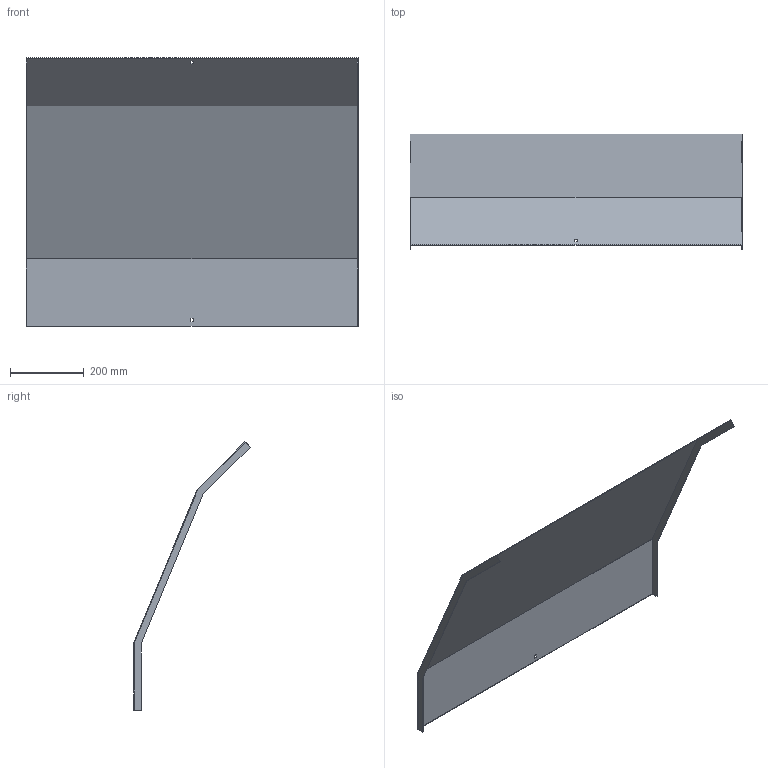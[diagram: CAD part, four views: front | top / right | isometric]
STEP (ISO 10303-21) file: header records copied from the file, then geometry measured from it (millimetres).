
FILE_DESCRIPTION (( 'STEP AP214' ), '1' );
FILE_NAME ('34N5F900.step', '2025-02-21T14:25:03', ( '' ), ( '' ), 'SwSTEP 2.0', 'SolidWorks 2023', '' );
FILE_SCHEMA (( 'AUTOMOTIVE_DESIGN' ));
Length unit declared in the file: millimetre
Products named in the file (1): 34N5F900
Bounding box: 903 x 316.43 x 729.78 mm (x, y, z)
Volume: 1151798.8 mm3; surface area: 1541052.6 mm2
Topology: 1 solids, 1 shells, 26 faces, 72 edges, 48 vertices
Faces by surface type: plane 26
Entity records: 847 total; most frequent: CARTESIAN_POINT 147, ORIENTED_EDGE 144, DIRECTION 126, VECTOR 72, LINE 72, EDGE_CURVE 72, VERTEX_POINT 48, EDGE_LOOP 30
